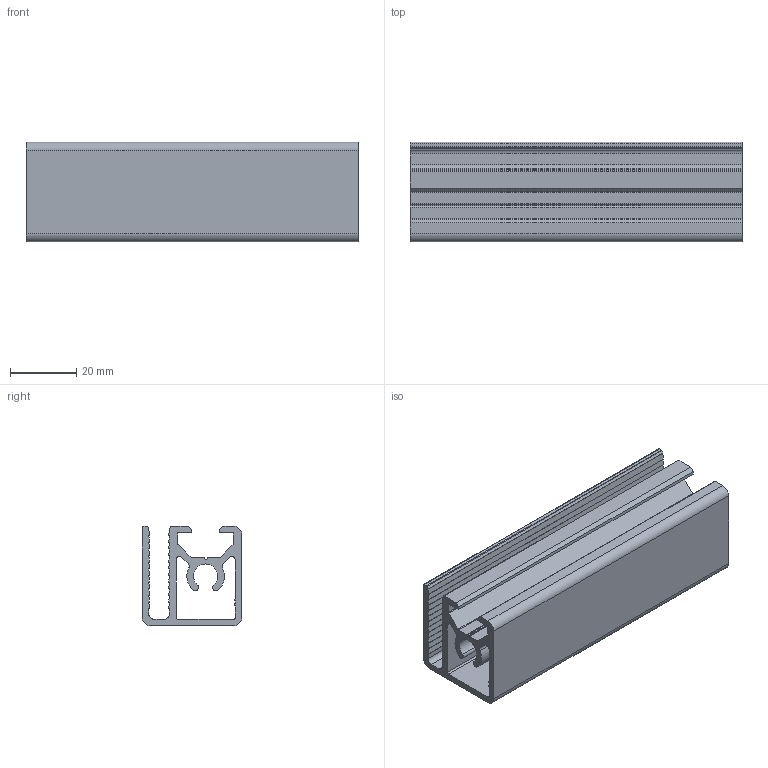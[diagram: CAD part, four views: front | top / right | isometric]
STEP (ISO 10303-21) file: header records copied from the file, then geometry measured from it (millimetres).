
FILE_DESCRIPTION (( 'STEP AP203' ), '1' );
FILE_NAME ('084.104.003.STEP', '2021-01-21T14:45:44', ( '' ), ( '' ), 'SwSTEP 2.0', 'SolidWorks 2018', '' );
FILE_SCHEMA (( 'CONFIG_CONTROL_DESIGN' ));
Length unit declared in the file: millimetre
Products named in the file (1): 084.104.003
Bounding box: 100 x 30 x 30 mm (x, y, z)
Volume: 33163.5 mm3; surface area: 31875.3 mm2
Topology: 1 solids, 1 shells, 123 faces, 363 edges, 242 vertices
Faces by surface type: plane 83, cylinder 40
Entity records: 4178 total; most frequent: CARTESIAN_POINT 729, ORIENTED_EDGE 726, DIRECTION 691, EDGE_CURVE 363, VECTOR 283, LINE 283, VERTEX_POINT 242, AXIS2_PLACEMENT_3D 204
